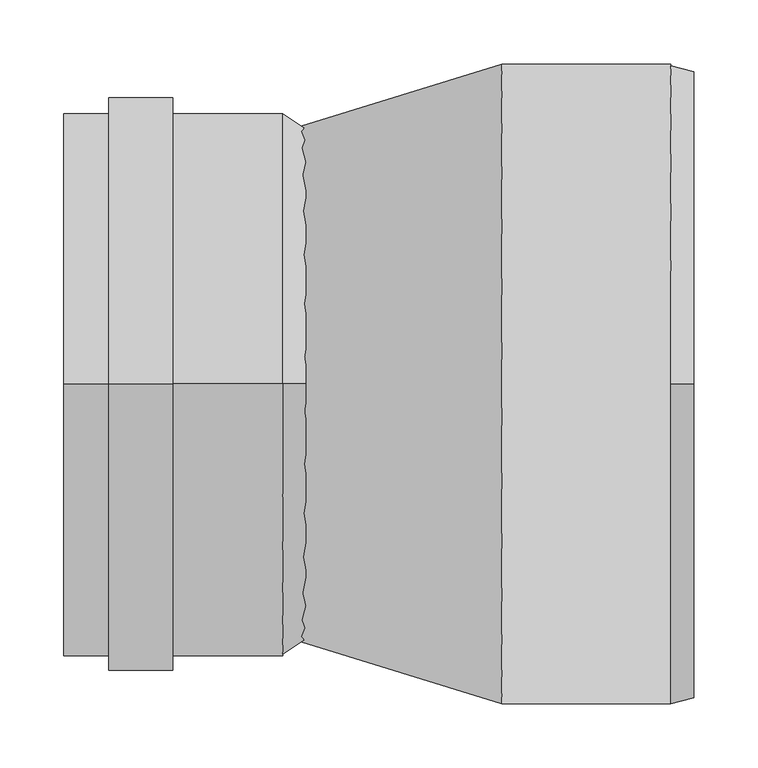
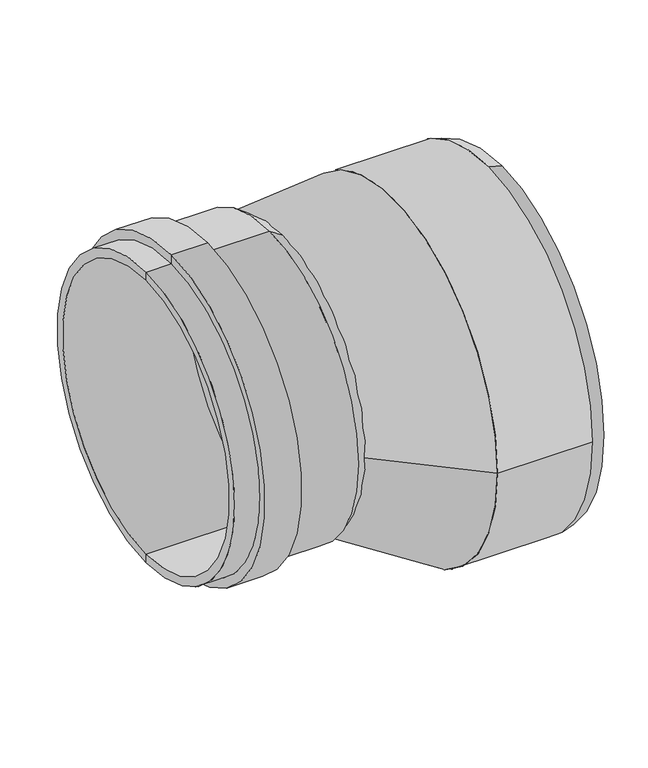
"""IFC4 building model written with IfcOpenShell, lengths in millimetres: pipe fitting geometry, OSMA_KG2000_PPKGR : Redukce nesouosá dlouhá."""

from ifc_helpers import new_model, si_unit, frame, origin, place, context, project, spatial, polyline, circle_curve, source, transform, mapped, element, save
from ifc_brep_helpers import plane_surface, cylinder_surface, revolved_surface, spline_surface, advanced_brep


def pipe_fitting_edcea866(model_context):
    return source(origin(), model_context, "Body", "AdvancedBrep", [
        advanced_brep(
        [(-9.0, 0.0, 200.0), (-9.0, 0.0, -200.0), (-180.0, 0.0, -200.0), (-180.0, 0.0, 200.0), (-95.0, 0.0, 212.3), (-95.0, 0.0, -212.3), (-9.0, 0.0, -212.3), (-9.0, 0.0, 212.3), (-95.0, 0.0, -225.0), (-95.0, 0.0, 225.0), (-145.0, 0.0, -225.0), (-145.0, 0.0, 225.0), (-145.0, 0.0, -212.3), (-145.0, 0.0, 212.3), (-180.0, 0.0, -212.3), (-180.0, 0.0, 212.3), (9.0, 0.0, 187.7), (9.0, 0.0, -187.7), (9.0, 0.0, 200.0), (9.0, 0.0, -200.0)],
        [
            (0, 1, circle_curve(frame((-9.0, 0.0, 0.0), z_axis=(1.0, 0.0, 0.0), x_axis=(0.0, 0.0, -1.0)), 200.0)),
            (1, 2),
            (2, 3, circle_curve(frame((-180.0, 0.0, 0.0), z_axis=(-1.0, 0.0, 0.0), x_axis=(0.0, 0.0, -1.0)), 200.0)),
            (3, 0),
            (1, 0, circle_curve(frame((-9.0, 0.0, 0.0), z_axis=(1.0, 0.0, 0.0), x_axis=(0.0, 0.0, -1.0)), 200.0)),
            (3, 2, circle_curve(frame((-180.0, 0.0, 0.0), z_axis=(-1.0, 0.0, 0.0), x_axis=(0.0, 0.0, -1.0)), 200.0)),
            (4, 5, circle_curve(frame((-95.0, 0.0, 0.0), z_axis=(1.0, 0.0, 0.0), x_axis=(0.0, 0.0, -1.0)), 212.3)),
            (5, 6),
            (6, 7, circle_curve(frame((-9.0, 0.0, 0.0), z_axis=(-1.0, 0.0, 0.0), x_axis=(0.0, 0.0, -1.0)), 212.3)),
            (7, 4),
            (8, 9, circle_curve(frame((-95.0, 0.0, 0.0), z_axis=(1.0, 0.0, 0.0), x_axis=(0.0, 0.0, -1.0)), 225.0)),
            (9, 4),
            (4, 5, circle_curve(frame((-95.0, 0.0, 0.0), z_axis=(-1.0, 0.0, 0.0), x_axis=(0.0, 0.0, -1.0)), 212.3)),
            (5, 8),
            (10, 11, circle_curve(frame((-145.0, 0.0, 0.0), z_axis=(1.0, 0.0, 0.0), x_axis=(0.0, 0.0, -1.0)), 225.0)),
            (11, 9),
            (8, 10),
            (12, 13, circle_curve(frame((-145.0, 0.0, 0.0), z_axis=(1.0, 0.0, 0.0), x_axis=(0.0, 0.0, -1.0)), 212.3)),
            (13, 11),
            (10, 12),
            (14, 15, circle_curve(frame((-180.0, 0.0, 0.0), z_axis=(1.0, 0.0, 0.0), x_axis=(0.0, 0.0, -1.0)), 212.3)),
            (15, 13),
            (12, 14),
            (16, 17, circle_curve(frame((9.0, 0.0, 0.0), z_axis=(1.0, 0.0, 0.0), x_axis=(0.0, 0.0, -1.0)), 187.7)),
            (17, 1),
            (0, 16),
            (17, 16, circle_curve(frame((9.0, 0.0, 0.0), z_axis=(1.0, 0.0, 0.0), x_axis=(0.0, 0.0, -1.0)), 187.7)),
            (18, 19, circle_curve(frame((9.0, 0.0, 0.0), z_axis=(1.0, 0.0, 0.0), x_axis=(0.0, 0.0, -1.0)), 200.0)),
            (19, 17),
            (16, 18),
            (19, 18, circle_curve(frame((9.0, 0.0, 0.0), z_axis=(1.0, 0.0, 0.0), x_axis=(0.0, 0.0, -1.0)), 200.0)),
            (6, 19),
            (18, 7),
            (6, 7, circle_curve(frame((-9.0, 0.0, 0.0), z_axis=(1.0, 0.0, 0.0), x_axis=(0.0, 0.0, -1.0)), 212.3)),
            (9, 8, circle_curve(frame((-95.0, 0.0, 0.0), z_axis=(1.0, 0.0, 0.0), x_axis=(0.0, 0.0, -1.0)), 225.0)),
            (11, 10, circle_curve(frame((-145.0, 0.0, 0.0), z_axis=(1.0, 0.0, 0.0), x_axis=(0.0, 0.0, -1.0)), 225.0)),
            (13, 12, circle_curve(frame((-145.0, 0.0, 0.0), z_axis=(1.0, 0.0, 0.0), x_axis=(0.0, 0.0, -1.0)), 212.3)),
            (15, 14, circle_curve(frame((-180.0, 0.0, 0.0), z_axis=(1.0, 0.0, 0.0), x_axis=(0.0, 0.0, -1.0)), 212.3)),
            (2, 14),
            (15, 3),
        ],
        [
            revolved_surface(polyline([(-180.0, 0.0, -200.0), (-9.0, 0.0, -200.0)]), (-2849.4742198, 0.0, 0.0), (-1.0, 0.0, 0.0)),
            cylinder_surface(frame((-2849.4742198, 0.0, 0.0), z_axis=(-1.0, 0.0, 0.0), x_axis=(0.0, 0.0, -1.0)), 212.3),
            plane_surface(frame((-95.0, 0.0, 0.0), z_axis=(1.0, 0.0, 0.0), x_axis=(0.0, 0.0, -1.0))),
            cylinder_surface(frame((-2849.4742198, 0.0, 0.0), z_axis=(-1.0, 0.0, 0.0), x_axis=(0.0, 0.0, -1.0)), 225.0),
            plane_surface(frame((-145.0, 0.0, 0.0), z_axis=(-1.0, 0.0, 0.0), x_axis=(0.0, 0.0, -1.0))),
            revolved_surface(polyline([(-9.0, 0.0, -200.0), (9.0, 0.0, -187.7)]), (-2849.4742198, 0.0, 0.0), (-1.0, 0.0, 0.0)),
            plane_surface(frame((9.0, 0.0, 0.0), z_axis=(1.0, 0.0, 0.0), x_axis=(0.0, 0.0, -1.0))),
            revolved_surface(polyline([(9.0, 0.0, -200.0), (-9.0, 0.0, -212.3)]), (-2849.4742198, 0.0, 0.0), (-1.0, 0.0, 0.0)),
            plane_surface(frame((-180.0, 0.0, 0.0), z_axis=(-1.0, 0.0, 0.0), x_axis=(0.0, 0.0, -1.0))),
        ],
        [
            (0, [[1, 2, 3, 4]]),
            (0, [[5, -4, 6, -2]]),
            (1, [[7, 8, 9, 10]]),
            (2, [[11, 12, 13, 14]]),
            (3, [[15, 16, -11, 17]]),
            (4, [[18, 19, -15, 20]]),
            (1, [[21, 22, -18, 23]]),
            (5, [[24, 25, -1, 26]]),
            (5, [[27, -26, -5, -25]]),
            (6, [[28, 29, -24, 30]]),
            (6, [[31, -30, -27, -29]]),
            (7, [[-9, 32, -28, 33]]),
            (7, [[34, -33, -31, -32]]),
            (1, [[-13, -10, -34, -8]]),
            (2, [[35, -14, -7, -12]]),
            (3, [[36, -17, -35, -16]]),
            (4, [[37, -20, -36, -19]]),
            (1, [[38, -23, -37, -22]]),
            (8, [[-3, 39, -38, 40]]),
            (8, [[-6, -40, -21, -39]]),
        ],
    ),
        advanced_brep(
        [(312.0, 0.0, -295.1769145), (312.0, 0.0, 195.1769145), (312.0, 0.0, 184.7), (312.0, 0.0, -284.7), (294.0, 0.0, -300.0), (294.0, 250.0, -50.0), (294.0, 0.0, 200.0), (294.0, -250.0, -50.0), (294.0, 0.0, 184.7), (294.0, 0.0, -284.7), (162.0, 250.0, -50.0), (162.0, -250.0, -50.0)],
        [
            (0, 1, circle_curve(frame((312.0, 0.0, -50.0), z_axis=(1.0, 0.0, 0.0), x_axis=(0.0, 0.0, 1.0)), 245.1769145)),
            (1, 2),
            (2, 3, circle_curve(frame((312.0, 0.0, -50.0), z_axis=(-1.0, 0.0, 0.0), x_axis=(0.0, 0.0, 1.0)), 234.7)),
            (3, 0),
            (1, 0, circle_curve(frame((312.0, 0.0, -50.0), z_axis=(1.0, 0.0, 0.0), x_axis=(0.0, 0.0, 1.0)), 245.1769145)),
            (3, 2, circle_curve(frame((312.0, 0.0, -50.0), z_axis=(-1.0, 0.0, 0.0), x_axis=(0.0, 0.0, 1.0)), 234.7)),
            (0, 4),
            (4, 5, circle_curve(frame((294.0, 0.0, -50.0), z_axis=(1.0, 0.0, 0.0), x_axis=(0.0, 0.0, 1.0)), 250.0)),
            (5, 6, circle_curve(frame((294.0, 0.0, -50.0), z_axis=(1.0, 0.0, 0.0), x_axis=(0.0, 0.0, 1.0)), 250.0)),
            (6, 1),
            (6, 7, circle_curve(frame((294.0, 0.0, -50.0), z_axis=(1.0, 0.0, 0.0), x_axis=(0.0, 0.0, 1.0)), 250.0)),
            (7, 4, circle_curve(frame((294.0, 0.0, -50.0), z_axis=(1.0, 0.0, 0.0), x_axis=(0.0, 0.0, 1.0)), 250.0)),
            (2, 8),
            (8, 9, circle_curve(frame((294.0, 0.0, -50.0), z_axis=(-1.0, 0.0, 0.0), x_axis=(0.0, 0.0, 1.0)), 234.7)),
            (9, 3),
            (9, 8, circle_curve(frame((294.0, 0.0, -50.0), z_axis=(-1.0, 0.0, 0.0), x_axis=(0.0, 0.0, 1.0)), 234.7)),
            (10, 11, circle_curve(frame((162.0, 0.0, -50.0), z_axis=(-1.0, 0.0, 0.0), x_axis=(0.0, -1.0, 0.0)), 250.0)),
            (11, 10, circle_curve(frame((162.0, 0.0, -50.0), z_axis=(-1.0, 0.0, 0.0), x_axis=(0.0, -1.0, 0.0)), 250.0)),
            (11, 7),
            (5, 10),
        ],
        [
            plane_surface(frame((312.0, 0.0, -50.0), z_axis=(1.0, 0.0, 0.0), x_axis=(0.0, 0.0, 1.0))),
            revolved_surface(polyline([(312.0, 0.0, 195.1769145), (294.0, 0.0, 200.0)]), (180.4287569, 0.0, -50.0), (-1.0, 0.0, 0.0)),
            revolved_surface(polyline([(294.0, 0.0, 184.7), (312.0, 0.0, 184.7)]), (180.4287569, 0.0, -50.0), (-1.0, 0.0, 0.0)),
            plane_surface(frame((294.0, 0.0, 0.0), z_axis=(1.0, 0.0, 0.0), x_axis=(0.0, 0.0, 1.0))),
            plane_surface(frame((162.0, 0.0, 0.0), z_axis=(-1.0, 0.0, 0.0), x_axis=(0.0, 0.0, 1.0))),
            cylinder_surface(frame((294.0, 0.0, -50.0), z_axis=(1.0, 0.0, 0.0), x_axis=(0.0, -1.0, 0.0)), 250.0),
        ],
        [
            (0, [[1, 2, 3, 4]]),
            (0, [[-2, 5, -4, 6]]),
            (1, [[-1, 7, 8, 9, 10]]),
            (1, [[-5, -10, 11, 12, -7]]),
            (2, [[-3, 13, 14, 15]]),
            (2, [[-6, -15, 16, -13]]),
            (3, [[-14, -16]]),
            (4, [[17, 18]]),
            (5, [[-18, 19, -11, -9, 20]]),
            (5, [[-17, -20, -8, -12, -19]]),
        ],
    ),
        advanced_brep(
        [(0.0, 200.0, 0.0), (0.0, -200.0, 0.0), (162.0, 250.0, -50.0), (162.0, -250.0, -50.0)],
        [
            (0, 1, circle_curve(frame((0.0, 0.0, 0.0), z_axis=(-1.0, 0.0, 0.0), x_axis=(0.0, -1.0, 0.0)), 200.0)),
            (1, 0, circle_curve(frame((0.0, 0.0, 0.0), z_axis=(-1.0, 0.0, 0.0), x_axis=(0.0, -1.0, 0.0)), 200.0)),
            (2, 3, circle_curve(frame((162.0, 0.0, -50.0), z_axis=(1.0, 0.0, 0.0), x_axis=(0.0, -1.0, 0.0)), 250.0)),
            (3, 2, circle_curve(frame((162.0, 0.0, -50.0), z_axis=(1.0, 0.0, 0.0), x_axis=(0.0, -1.0, 0.0)), 250.0)),
            (3, 1),
            (0, 2),
        ],
        [
            plane_surface(frame((0.0, 0.0, 0.0), z_axis=(-1.0, 0.0, 0.0), x_axis=(0.0, 0.0, -1.0))),
            plane_surface(frame((162.0, 0.0, -50.0), z_axis=(1.0, 0.0, 0.0), x_axis=(0.0, 0.0, -1.0))),
            spline_surface(2, 1, [[(162.0, 250.0, -50.0), (0.0, 200.0, 0.0)], [(162.0, 250.0, -300.0), (0.0, 200.0, -200.0)], [(162.0, 0.0, -300.0), (0.0, 0.0, -200.0)], [(162.0, -250.0, -300.0), (0.0, -200.0, -200.0)], [(162.0, -250.0, -50.0), (0.0, -200.0, 0.0)]], [3, 2, 3], [2, 2], [0.0, 1.0, 2.0], [0.0, 1.0], weights=[[1.0, 1.0], [0.7071067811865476, 0.7071067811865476], [1.0, 1.0], [0.7071067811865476, 0.7071067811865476], [1.0, 1.0]]),
            spline_surface(2, 1, [[(162.0, -250.0, -50.0), (0.0, -200.0, 0.0)], [(162.0, -250.0, 200.0), (0.0, -200.0, 200.0)], [(162.0, 0.0, 200.0), (0.0, 0.0, 200.0)], [(162.0, 250.0, 200.0), (0.0, 200.0, 200.0)], [(162.0, 250.0, -50.0), (0.0, 200.0, 0.0)]], [3, 2, 3], [2, 2], [0.0, 1.0, 2.0], [0.0, 1.0], weights=[[1.0, 1.0], [0.7071067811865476, 0.7071067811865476], [1.0, 1.0], [0.7071067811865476, 0.7071067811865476], [1.0, 1.0]]),
        ],
        [
            (0, [[1, 2]]),
            (1, [[3, 4]]),
            (2, [[-4, 5, -1, 6]]),
            (3, [[-3, -6, -2, -5]]),
        ],
    ),
    ])


if __name__ == "__main__":
    model = new_model("IFC4")
    model_context = context("Model", 3, world=origin())
    ifc_project = project(units=[si_unit("LENGTHUNIT", "METRE", prefix="MILLI")], contexts=[model_context])
    site = spatial("IfcSite", under=ifc_project)
    building = spatial("IfcBuilding", under=site)
    placement = place(None, origin())
    pipe_fitting_shape = pipe_fitting_edcea866(model_context)
    element("IfcPipeFitting", 1, ObjectType="OSMA_KG2000_PPKGR : Redukce nesouosá dlouhá", at=placement, inside=building, context=model_context, shape_type="MappedRepresentation", body=[
        mapped(pipe_fitting_shape, transform((0.0, 0.0, 0.0), x_axis=(1.0, 0.0, 0.0), y_axis=(0.0, 1.0, 0.0), z_axis=(0.0, 0.0, 1.0))),
    ])
    save(model, "model.ifc")
